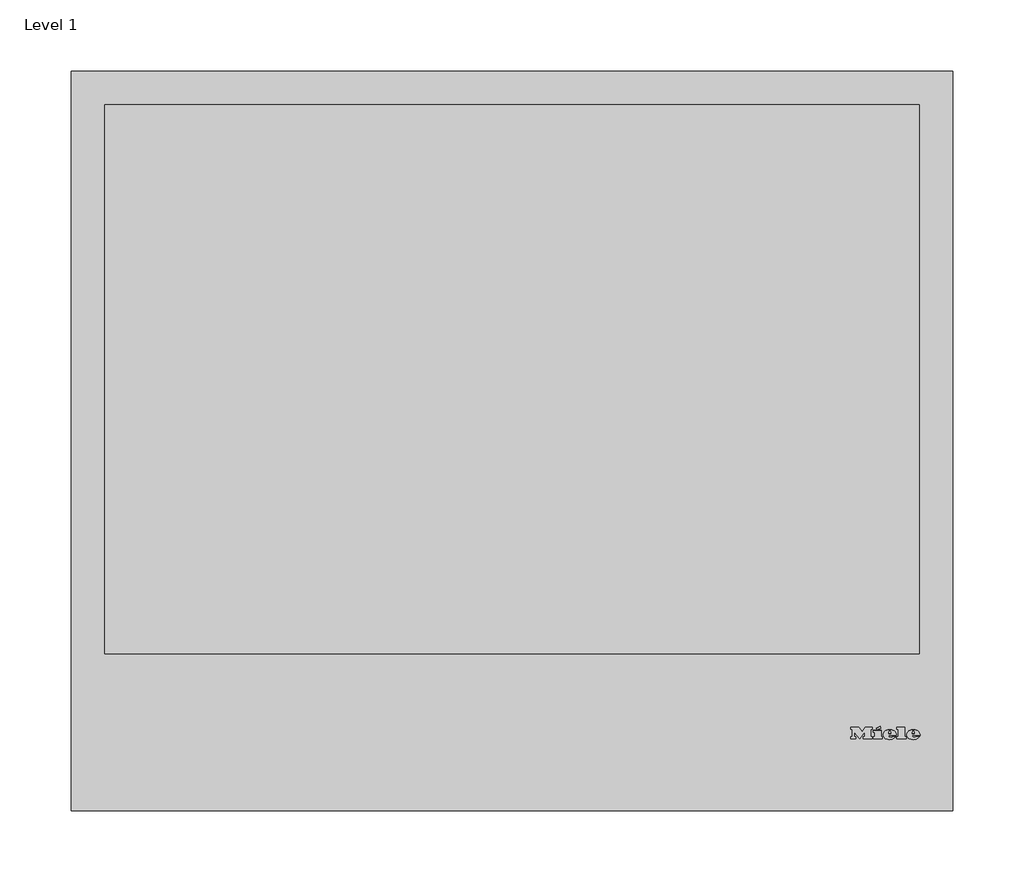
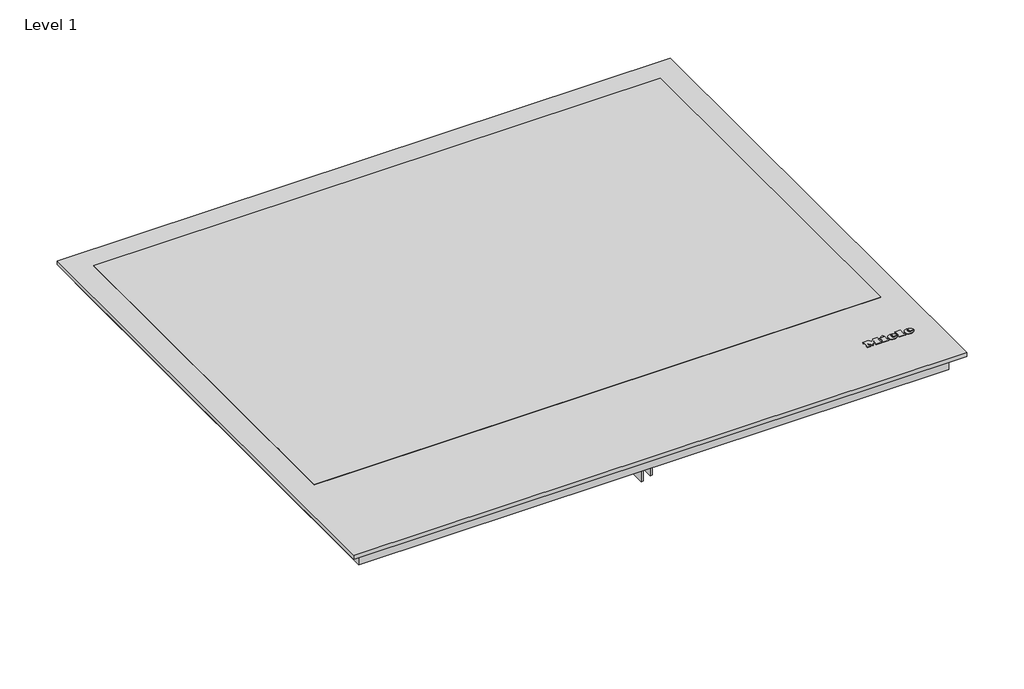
# One storey: 1 proxy.
"""IFC4 building model written with IfcOpenShell, lengths in millimetres."""

from ifc_helpers import new_model, si_unit, origin, place, context, project, spatial, transform, mapped, element, save
from components import specialty_equipment_dca31267

model = new_model("IFC4")

# Units and contexts
model_context = context("Model", 3, world=origin())
ifc_project = project(units=[si_unit("LENGTHUNIT", "METRE", prefix="MILLI")], contexts=[model_context])

# Site, building, storey
site = spatial("IfcSite", under=ifc_project)
building = spatial("IfcBuilding", under=site)
storey = spatial("IfcBuildingStorey", under=building, Name="Level 1", Elevation=0.0)

# Proxy
placement = place(None, origin())
specialty_equipment_shape = specialty_equipment_dca31267(model_context)
element("IfcBuildingElementProxy", 1, Name="11126740_F_KM7667FL : 26766770_F_11126740_KM7667FL", ObjectType="11126740_F_KM7667FL : 26766770_F_11126740_KM7667FL", at=placement, inside=storey, context=model_context, shape_type="MappedRepresentation", body=[
    mapped(specialty_equipment_shape, transform((0.0, 0.0, 0.0), x_axis=(1.0, 0.0, 0.0), y_axis=(0.0, 1.0, 0.0), z_axis=(0.0, 0.0, 1.0))),
])

save(model, "model.ifc")
